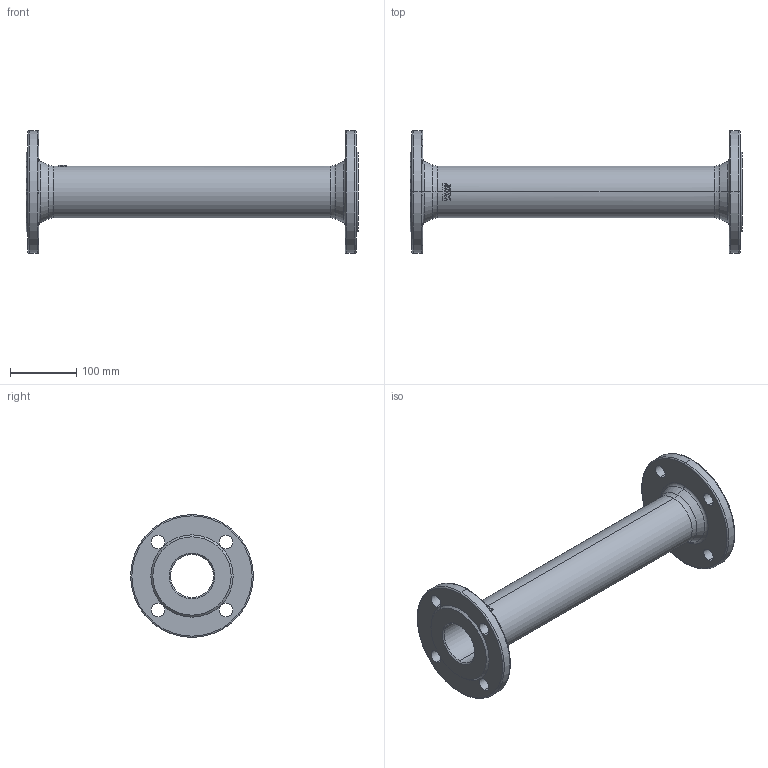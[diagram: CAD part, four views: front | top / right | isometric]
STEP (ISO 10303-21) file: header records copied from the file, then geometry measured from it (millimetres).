
FILE_DESCRIPTION (( 'STEP AP203' ), '1' );
FILE_NAME ('O_712_4810_DN65_1X_REV01.step', '2021-12-01T10:11:20', ( '' ), ( '' ), 'SwSTEP 2.0', 'SolidWorks 2019', '' );
FILE_SCHEMA (( 'CONFIG_CONTROL_DESIGN' ));
Length unit declared in the file: millimetre
Products named in the file (1): O_712_4810_DN65_1X_REV01
Bounding box: 500 x 185 x 185 mm (x, y, z)
Volume: 1477347.9 mm3; surface area: 323905.7 mm2
Topology: 1 solids, 1 shells, 100 faces, 247 edges, 156 vertices
Faces by surface type: cylinder 29, plane 26, bspline 17, torus 16, cone 12
Entity records: 3322 total; most frequent: CARTESIAN_POINT 839, DIRECTION 511, ORIENTED_EDGE 494, EDGE_CURVE 247, AXIS2_PLACEMENT_3D 214, VERTEX_POINT 156, CIRCLE 130, EDGE_LOOP 125
